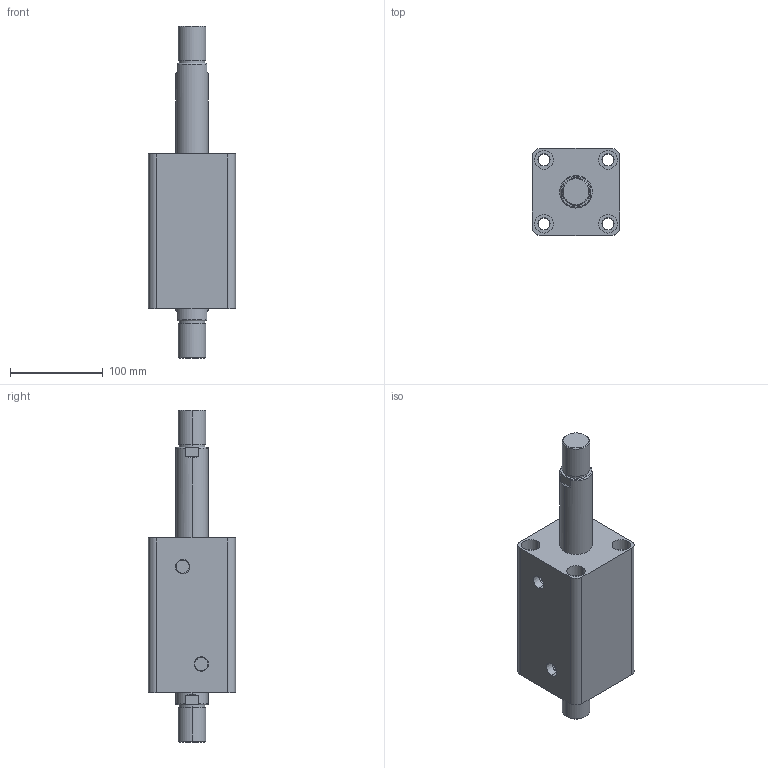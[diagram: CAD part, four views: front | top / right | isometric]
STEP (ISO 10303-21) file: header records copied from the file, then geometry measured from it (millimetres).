
FILE_DESCRIPTION (( 'STEP AP203' ), '1' );
FILE_NAME ('HTB-SW63-85W.STEP', '2019-10-07T10:08:36', ( '微软用户' ), ( '微软中国' ), 'SwSTEP 2.0', 'SolidWorks 2012', '' );
FILE_SCHEMA (( 'CONFIG_CONTROL_DESIGN' ));
Length unit declared in the file: millimetre
Products named in the file (3): HTB-SW63-85W; HTB-SW63-85W活塞杆; HTB-SW63-85掛极
Assembly tree (2 placements, depth 2):
  HTB-SW63-85W
    HTB-SW63-85掛极
    HTB-SW63-85W活塞杆
Bounding box: 94 x 94 x 358 mm (x, y, z)
Volume: 1331609.6 mm3; surface area: 183125 mm2
Topology: 2 solids, 2 shells, 108 faces, 240 edges, 156 vertices
Faces by surface type: cylinder 52, plane 36, torus 12, cone 8
Entity records: 3465 total; most frequent: CARTESIAN_POINT 645, DIRECTION 586, ORIENTED_EDGE 480, AXIS2_PLACEMENT_3D 249, EDGE_CURVE 240, VERTEX_POINT 156, EDGE_LOOP 138, CIRCLE 136
